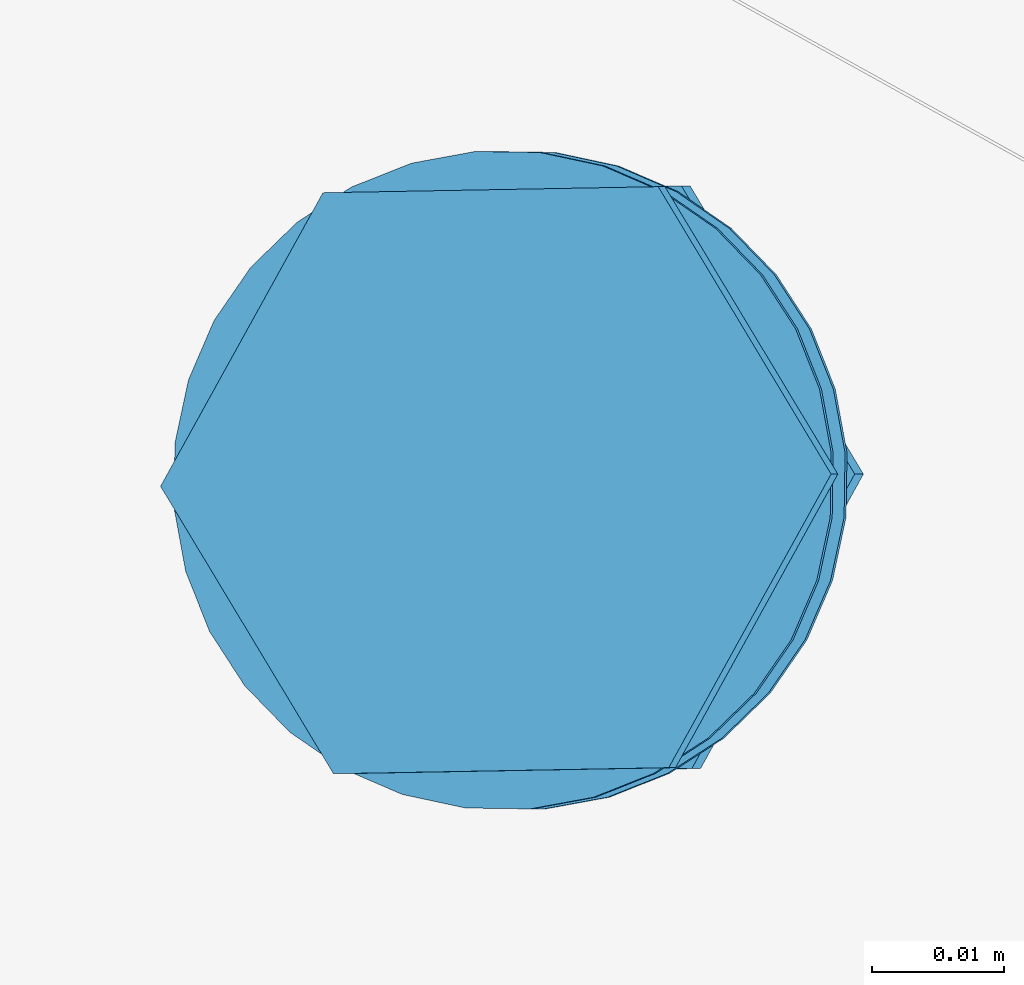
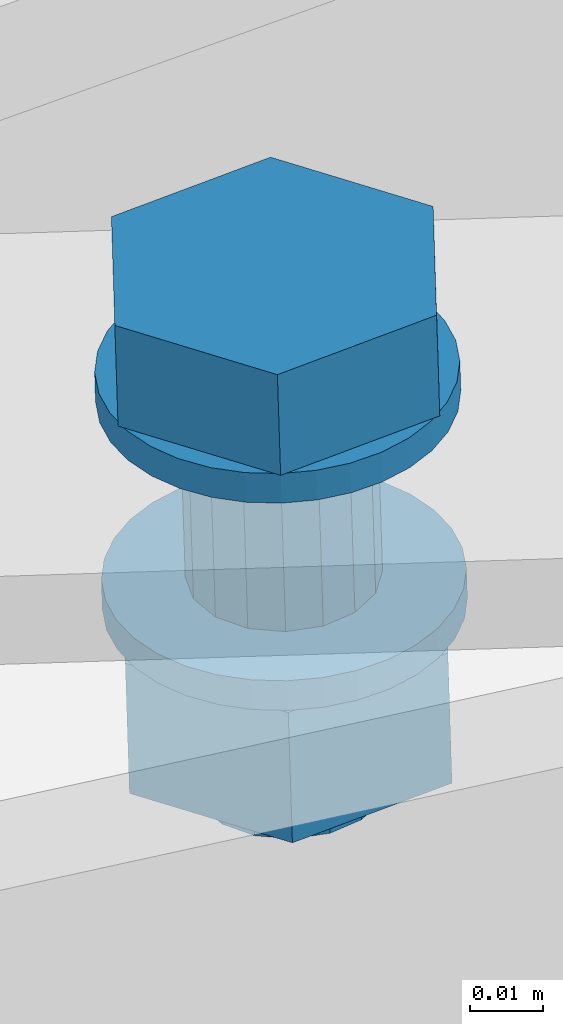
# One storey, part 127 of 476: 1 mechanical fastener.
"""IFC2X3 building model written with IfcOpenShell, lengths in millimetres."""

from ifc_helpers import new_model, entity, si_unit, converted_unit, origin_with_axes, place, context, project, spatial, faceted_brep, element, save


model = new_model("IFC2X3")

# Units and contexts
model_context = context("Model", 3, precision=1e-09, world=origin_with_axes())
ifc_project = project(units=[si_unit("LENGTHUNIT", "METRE", prefix="MILLI"), si_unit("AREAUNIT", "SQUARE_METRE"), si_unit("VOLUMEUNIT", "CUBIC_METRE"), converted_unit("PLANEANGLEUNIT", "DEGREE", entity("IfcPlaneAngleMeasure", 0.01745329), si_unit("PLANEANGLEUNIT", "RADIAN"), dimensions=[0, 0, 0, 0, 0, 0, 0])], contexts=[model_context])

# Site, building, storey
site_placement = place(None, origin_with_axes())
site = spatial("IfcSite", under=ifc_project, at=site_placement, Name="mKR Teilneubau & Sanierung BA1 - Ostfildern", CompositionType="ELEMENT")
building_placement = place(site_placement, origin_with_axes())
building = spatial("IfcBuilding", under=site, at=building_placement, Name="Struktur 1", CompositionType="ELEMENT")
storey_placement = place(building_placement, origin_with_axes())
storey = spatial("IfcBuildingStorey", under=building, at=storey_placement, Name="Default Storey", CompositionType="ELEMENT", Elevation=0.0)

# Mechanical fastener
mechanical_fastener_placement = place(None, origin_with_axes())
element("IfcMechanicalFastener", 1, at=mechanical_fastener_placement, inside=storey, ObjectType="-", NominalDiameter=27.0, NominalLength=70.0, context=model_context, shape_type="Brep", body=[
    faceted_brep([(15364.546151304, -9932.455655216, 5450.770416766), (15364.696361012, -9932.455655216, 5445.772673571), (15366.636665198, -9927.955630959, 5445.830990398), (15366.486455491, -9927.955630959, 5450.828733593), (15367.662172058, -9923.163367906, 5445.861812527), (15367.51196235, -9923.163367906, 5450.859555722), (15367.733471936, -9918.263030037, 5445.863955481), (15367.583262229, -9918.263030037, 5450.861698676), (15366.84782482, -9913.442934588, 5445.837336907), (15366.697615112, -9913.442934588, 5450.835080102), (15365.03926563, -9908.888315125, 5445.782979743), (15364.889055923, -9908.888315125, 5450.780722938), (15362.377296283, -9904.77420312, 5445.702972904), (15362.227086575, -9904.77420312, 5450.700716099), (15358.964214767, -9901.258701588, 5445.600391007), (15358.81400506, -9901.258701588, 5450.598134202), (15354.931183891, -9898.476909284, 5445.479176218), (15354.780974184, -9898.476909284, 5450.476919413), (15350.43319077, -9896.535728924, 5445.343986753), (15350.282981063, -9896.535728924, 5450.341729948), (15345.643090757, -9895.509758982, 5445.200017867), (15345.49288105, -9895.509758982, 5450.197761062), (15340.74496471, -9895.438426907, 5445.052802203), (15340.594755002, -9895.438426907, 5450.050545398), (15335.927044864, -9896.32447395, 5444.907997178), (15335.776835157, -9896.32447395, 5449.905740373), (15331.374481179, -9898.133849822, 5444.771167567), (15331.224271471, -9898.133849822, 5449.768910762), (15327.262226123, -9900.797021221, 5444.647571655), (15327.112016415, -9900.797021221, 5449.64531485), (15323.748311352, -9904.211643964, 5444.541959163), (15323.598101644, -9904.211643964, 5449.539702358), (15320.967774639, -9908.246496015, 5444.458388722), (15320.817564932, -9908.246496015, 5449.456131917), (15319.027470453, -9912.746520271, 5444.400071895), (15318.877260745, -9912.746520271, 5449.39781509), (15318.001963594, -9917.538783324, 5444.369249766), (15317.851753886, -9917.538783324, 5449.366992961), (15317.930663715, -9922.439121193, 5444.367106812), (15317.780454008, -9922.439121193, 5449.364850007), (15318.816310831, -9927.259216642, 5444.393725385), (15318.666101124, -9927.259216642, 5449.391468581), (15320.624870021, -9931.813836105, 5444.448082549), (15320.474660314, -9931.813836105, 5449.445825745), (15323.286839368, -9935.927948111, 5444.528089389), (15323.136629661, -9935.927948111, 5449.525832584), (15326.699920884, -9939.443449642, 5444.630671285), (15326.549711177, -9939.443449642, 5449.62841448), (15330.73295176, -9942.225241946, 5444.751886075), (15330.582742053, -9942.225241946, 5449.74962927), (15335.230944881, -9944.166422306, 5444.88707554), (15335.080735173, -9944.166422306, 5449.884818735), (15340.021044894, -9945.192392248, 5445.031044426), (15339.870835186, -9945.192392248, 5450.028787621), (15344.919170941, -9945.263724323, 5445.178260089), (15344.768961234, -9945.263724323, 5450.176003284), (15349.737090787, -9944.37767728, 5445.323065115), (15349.58688108, -9944.37767728, 5450.32080831), (15354.289654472, -9942.568301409, 5445.459894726), (15354.139444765, -9942.568301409, 5450.457637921), (15358.401909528, -9939.90513001, 5445.583490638), (15358.251699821, -9939.90513001, 5450.581233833), (15361.915824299, -9936.490507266, 5445.689103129), (15361.765614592, -9936.490507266, 5450.686846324)], [[[0, 1, 2, 3]], [[3, 2, 4, 5]], [[5, 4, 6, 7]], [[7, 6, 8, 9]], [[9, 8, 10, 11]], [[11, 10, 12, 13]], [[13, 12, 14, 15]], [[15, 14, 16, 17]], [[17, 16, 18, 19]], [[19, 18, 20, 21]], [[21, 20, 22, 23]], [[23, 22, 24, 25]], [[25, 24, 26, 27]], [[27, 26, 28, 29]], [[29, 28, 30, 31]], [[31, 30, 32, 33]], [[33, 32, 34, 35]], [[35, 34, 36, 37]], [[37, 36, 38, 39]], [[39, 38, 40, 41]], [[41, 40, 42, 43]], [[43, 42, 44, 45]], [[45, 44, 46, 47]], [[47, 46, 48, 49]], [[49, 48, 50, 51]], [[51, 50, 52, 53]], [[53, 52, 54, 55]], [[55, 54, 56, 57]], [[57, 56, 58, 59]], [[59, 58, 60, 61]], [[61, 60, 62, 63]], [[63, 62, 1, 0]], [[0, 3, 5, 7, 9, 11, 13, 15, 17, 19, 21, 23, 25, 27, 29, 31, 33, 35, 37, 39, 41, 43, 45, 47, 49, 51, 53, 55, 57, 59, 61, 63]], [[1, 62, 60, 58, 56, 54, 52, 50, 48, 46, 44, 42, 40, 38, 36, 34, 32, 30, 28, 26, 24, 22, 20, 18, 16, 14, 12, 10, 8, 6, 4, 2]]]),
    faceted_brep([(15329.577329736, -9898.566979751, 5449.719411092), (15329.066616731, -9898.566979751, 5466.711737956), (15354.475946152, -9898.105048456, 5467.475428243), (15354.986659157, -9898.105048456, 5450.48310138), (15367.580474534, -9919.88914432, 5467.869291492), (15368.091187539, -9919.88914432, 5450.876964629), (15355.275673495, -9942.135171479, 5467.499464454), (15355.7863865, -9942.135171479, 5450.507137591), (15329.866344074, -9942.597102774, 5466.735774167), (15330.377057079, -9942.597102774, 5449.743447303), (15316.761815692, -9920.81300691, 5466.341910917), (15317.272528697, -9920.81300691, 5449.349584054)], [[[0, 1, 2, 3]], [[3, 2, 4, 5]], [[5, 4, 6, 7]], [[7, 6, 8, 9]], [[9, 8, 10, 11]], [[11, 10, 1, 0]], [[4, 2, 1, 10, 8, 6]], [[0, 3, 5, 7, 9, 11]]]),
    faceted_brep([(15354.638786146, -9926.887548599, 5445.470388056), (15355.540034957, -9926.887548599, 5415.484242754), (15357.141572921, -9921.869713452, 5415.53237779), (15356.240324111, -9921.869713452, 5445.518523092), (15356.701825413, -9916.620679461, 5415.519160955), (15355.800576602, -9916.620679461, 5445.505306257), (15354.287740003, -9911.939564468, 5415.446604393), (15353.386491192, -9911.939564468, 5445.432749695), (15350.266839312, -9908.539025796, 5415.325754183), (15349.365590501, -9908.539025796, 5445.311899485), (15345.251269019, -9906.936764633, 5415.175008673), (15344.350020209, -9906.936764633, 5445.161153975), (15340.004604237, -9907.376710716, 5415.017317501), (15339.103355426, -9907.376710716, 5445.003462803), (15335.325602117, -9909.791886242, 5414.876687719), (15334.424353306, -9909.791886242, 5444.862833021), (15331.926598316, -9913.814602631, 5414.774528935), (15331.025349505, -9913.814602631, 5444.760674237), (15330.325060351, -9918.832437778, 5414.726393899), (15329.42381154, -9918.832437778, 5444.712539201), (15330.764807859, -9924.08147177, 5414.739610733), (15329.863559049, -9924.08147177, 5444.725756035), (15333.178893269, -9928.762586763, 5414.812167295), (15332.277644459, -9928.762586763, 5444.798312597), (15337.199793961, -9932.163125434, 5414.933017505), (15336.29854515, -9932.163125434, 5444.919162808), (15342.215364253, -9933.765386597, 5415.083763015), (15341.314115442, -9933.765386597, 5445.069908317), (15347.462029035, -9933.325440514, 5415.241454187), (15346.560780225, -9933.325440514, 5445.227599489), (15352.141031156, -9930.910264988, 5415.38208397), (15351.239782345, -9930.910264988, 5445.368229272)], [[[0, 1, 2, 3]], [[3, 2, 4, 5]], [[5, 4, 6, 7]], [[7, 6, 8, 9]], [[9, 8, 10, 11]], [[11, 10, 12, 13]], [[13, 12, 14, 15]], [[15, 14, 16, 17]], [[17, 16, 18, 19]], [[19, 18, 20, 21]], [[21, 20, 22, 23]], [[23, 22, 24, 25]], [[25, 24, 26, 27]], [[27, 26, 28, 29]], [[29, 28, 30, 31]], [[31, 30, 1, 0]], [[0, 3, 5, 7, 9, 11, 13, 15, 17, 19, 21, 23, 25, 27, 29, 31]], [[1, 30, 28, 26, 24, 22, 20, 18, 16, 14, 12, 10, 8, 6, 4, 2]]]),
    faceted_brep([(15365.597609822, -9932.455655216, 5415.786528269), (15365.74781953, -9932.455655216, 5410.788785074), (15367.688123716, -9927.955630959, 5410.847101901), (15367.537914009, -9927.955630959, 5415.844845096), (15368.713630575, -9923.163367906, 5410.87792403), (15368.563420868, -9923.163367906, 5415.875667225), (15368.784930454, -9918.263030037, 5410.880066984), (15368.634720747, -9918.263030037, 5415.877810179), (15367.899283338, -9913.442934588, 5410.85344841), (15367.74907363, -9913.442934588, 5415.851191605), (15366.090724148, -9908.888315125, 5410.799091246), (15365.940514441, -9908.888315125, 5415.796834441), (15363.428754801, -9904.77420312, 5410.719084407), (15363.278545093, -9904.77420312, 5415.716827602), (15360.015673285, -9901.258701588, 5410.61650251), (15359.865463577, -9901.258701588, 5415.614245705), (15355.982642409, -9898.476909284, 5410.495287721), (15355.832432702, -9898.476909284, 5415.493030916), (15351.484649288, -9896.535728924, 5410.360098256), (15351.334439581, -9896.535728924, 5415.357841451), (15346.694549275, -9895.509758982, 5410.21612937), (15346.544339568, -9895.509758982, 5415.213872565), (15341.796423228, -9895.438426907, 5410.068913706), (15341.64621352, -9895.438426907, 5415.066656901), (15336.978503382, -9896.32447395, 5409.924108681), (15336.828293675, -9896.32447395, 5414.921851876), (15332.425939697, -9898.133849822, 5409.78727907), (15332.275729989, -9898.133849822, 5414.785022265), (15328.313684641, -9900.797021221, 5409.663683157), (15328.163474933, -9900.797021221, 5414.661426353), (15324.799769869, -9904.211643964, 5409.558070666), (15324.649560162, -9904.211643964, 5414.555813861), (15322.019233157, -9908.246496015, 5409.474500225), (15321.86902345, -9908.246496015, 5414.47224342), (15320.078928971, -9912.746520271, 5409.416183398), (15319.928719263, -9912.746520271, 5414.413926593), (15319.053422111, -9917.538783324, 5409.385361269), (15318.903212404, -9917.538783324, 5414.383104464), (15318.982122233, -9922.439121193, 5409.383218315), (15318.831912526, -9922.439121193, 5414.38096151), (15319.867769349, -9927.259216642, 5409.409836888), (15319.717559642, -9927.259216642, 5414.407580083), (15321.676328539, -9931.813836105, 5409.464194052), (15321.526118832, -9931.813836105, 5414.461937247), (15324.338297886, -9935.927948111, 5409.544200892), (15324.188088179, -9935.927948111, 5414.541944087), (15327.751379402, -9939.443449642, 5409.646782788), (15327.601169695, -9939.443449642, 5414.644525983), (15331.784410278, -9942.225241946, 5409.767997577), (15331.634200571, -9942.225241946, 5414.765740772), (15336.282403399, -9944.166422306, 5409.903187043), (15336.132193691, -9944.166422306, 5414.900930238), (15341.072503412, -9945.192392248, 5410.047155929), (15340.922293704, -9945.192392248, 5415.044899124), (15345.970629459, -9945.263724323, 5410.194371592), (15345.820419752, -9945.263724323, 5415.192114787), (15350.788549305, -9944.37767728, 5410.339176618), (15350.638339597, -9944.37767728, 5415.336919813), (15355.34111299, -9942.568301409, 5410.476006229), (15355.190903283, -9942.568301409, 5415.473749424), (15359.453368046, -9939.90513001, 5410.599602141), (15359.303158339, -9939.90513001, 5415.597345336), (15362.967282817, -9936.490507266, 5410.705214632), (15362.81707311, -9936.490507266, 5415.702957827)], [[[0, 1, 2, 3]], [[3, 2, 4, 5]], [[5, 4, 6, 7]], [[7, 6, 8, 9]], [[9, 8, 10, 11]], [[11, 10, 12, 13]], [[13, 12, 14, 15]], [[15, 14, 16, 17]], [[17, 16, 18, 19]], [[19, 18, 20, 21]], [[21, 20, 22, 23]], [[23, 22, 24, 25]], [[25, 24, 26, 27]], [[27, 26, 28, 29]], [[29, 28, 30, 31]], [[31, 30, 32, 33]], [[33, 32, 34, 35]], [[35, 34, 36, 37]], [[37, 36, 38, 39]], [[39, 38, 40, 41]], [[41, 40, 42, 43]], [[43, 42, 44, 45]], [[45, 44, 46, 47]], [[47, 46, 48, 49]], [[49, 48, 50, 51]], [[51, 50, 52, 53]], [[53, 52, 54, 55]], [[55, 54, 56, 57]], [[57, 56, 58, 59]], [[59, 58, 60, 61]], [[61, 60, 62, 63]], [[63, 62, 1, 0]], [[0, 3, 5, 7, 9, 11, 13, 15, 17, 19, 21, 23, 25, 27, 29, 31, 33, 35, 37, 39, 41, 43, 45, 47, 49, 51, 53, 55, 57, 59, 61, 63]], [[1, 62, 60, 58, 56, 54, 52, 50, 48, 46, 44, 42, 40, 38, 36, 34, 32, 30, 28, 26, 24, 22, 20, 18, 16, 14, 12, 10, 8, 6, 4, 2]]]),
    faceted_brep([(15331.401264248, -9898.502719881, 5387.746547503), (15330.740341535, -9898.502719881, 5409.736617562), (15356.22462473, -9898.039425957, 5410.502560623), (15356.885547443, -9898.039425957, 5388.512490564), (15369.367809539, -9919.887781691, 5410.89758571), (15370.028732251, -9919.887781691, 5388.907515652), (15357.026711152, -9942.199431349, 5410.526667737), (15357.687633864, -9942.199431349, 5388.536597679), (15331.542427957, -9942.662725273, 5409.760724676), (15332.203350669, -9942.662725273, 5387.770654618), (15318.399243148, -9920.814369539, 5409.365699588), (15319.060165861, -9920.814369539, 5387.37562953)], [[[0, 1, 2, 3]], [[3, 2, 4, 5]], [[5, 4, 6, 7]], [[7, 6, 8, 9]], [[9, 8, 10, 11]], [[11, 10, 1, 0]], [[4, 2, 1, 10, 8, 6]], [[0, 3, 5, 7, 9, 11]]]),
    faceted_brep([(15356.351167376, -9926.887548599, 5388.4964295), (15356.591512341, -9926.887548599, 5380.49972652), (15358.193050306, -9921.869713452, 5380.547861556), (15357.952705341, -9921.869713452, 5388.544564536), (15357.753302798, -9916.620679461, 5380.534644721), (15357.512957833, -9916.620679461, 5388.531347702), (15355.339217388, -9911.939564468, 5380.46208816), (15355.098872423, -9911.939564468, 5388.45879114), (15351.318316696, -9908.539025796, 5380.341237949), (15351.077971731, -9908.539025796, 5388.33794093), (15346.302746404, -9906.936764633, 5380.19049244), (15346.062401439, -9906.936764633, 5388.18719542), (15341.056081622, -9907.376710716, 5380.032801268), (15340.815736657, -9907.376710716, 5388.029504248), (15336.377079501, -9909.791886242, 5379.892171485), (15336.136734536, -9909.791886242, 5387.888874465), (15332.978075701, -9913.814602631, 5379.790012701), (15332.737730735, -9913.814602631, 5387.786715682), (15331.376537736, -9918.832437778, 5379.741877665), (15331.13619277, -9918.832437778, 5387.738580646), (15331.816285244, -9924.08147177, 5379.7550945), (15331.575940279, -9924.08147177, 5387.75179748), (15334.230370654, -9928.762586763, 5379.827651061), (15333.990025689, -9928.762586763, 5387.824354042), (15338.251271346, -9932.163125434, 5379.948501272), (15338.01092638, -9932.163125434, 5387.945204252), (15343.266841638, -9933.765386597, 5380.099246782), (15343.026496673, -9933.765386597, 5388.095949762), (15348.51350642, -9933.325440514, 5380.256937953), (15348.273161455, -9933.325440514, 5388.253640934), (15353.192508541, -9930.910264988, 5380.397567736), (15352.952163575, -9930.910264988, 5388.394270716)], [[[0, 1, 2, 3]], [[3, 2, 4, 5]], [[5, 4, 6, 7]], [[7, 6, 8, 9]], [[9, 8, 10, 11]], [[11, 10, 12, 13]], [[13, 12, 14, 15]], [[15, 14, 16, 17]], [[17, 16, 18, 19]], [[19, 18, 20, 21]], [[21, 20, 22, 23]], [[23, 22, 24, 25]], [[25, 24, 26, 27]], [[27, 26, 28, 29]], [[29, 28, 30, 31]], [[31, 30, 1, 0]], [[0, 3, 5, 7, 9, 11, 13, 15, 17, 19, 21, 23, 25, 27, 29, 31]], [[1, 30, 28, 26, 24, 22, 20, 18, 16, 14, 12, 10, 8, 6, 4, 2]]]),
])

save(model, "model.ifc")
